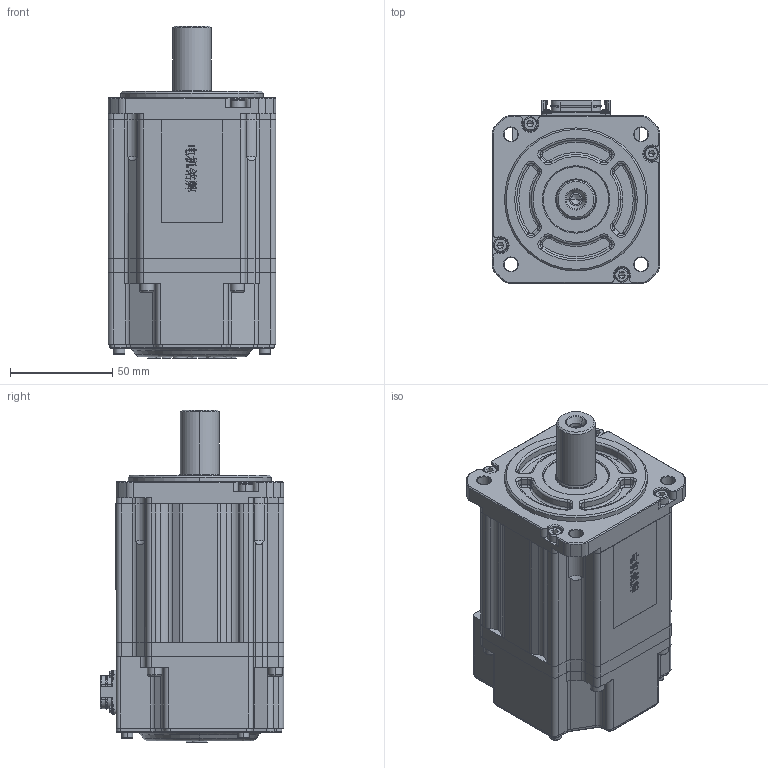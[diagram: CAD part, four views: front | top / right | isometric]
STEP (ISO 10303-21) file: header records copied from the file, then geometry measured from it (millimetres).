
FILE_DESCRIPTION (( 'STEP AP203' ), '1' );
FILE_NAME ('MC20-080-3L30-N751-0¡õCL-NNNN.STEP', '2026-04-20T15:25:38', ( '' ), ( '' ), 'SwSTEP 2.0', 'SolidWorks 2014', '' );
FILE_SCHEMA (( 'CONFIG_CONTROL_DESIGN' ));
Products named in the file (1): MC20-080-3L30-N751-0¡õCL-NNNN
Bounding box: 82 x 89.65 x 162.5 mm (x, y, z)
Volume: 811321.1 mm3; surface area: 125539.5 mm2
Topology: 18 solids, 22 shells, 2291 faces, 6015 edges, 3836 vertices
Faces by surface type: plane 1050, cylinder 600, bspline 340, cone 183, torus 118
Entity records: 90899 total; most frequent: CARTESIAN_POINT 37057, ORIENTED_EDGE 11880, DIRECTION 9996, EDGE_CURVE 5940, VERTEX_POINT 3836, VECTOR 3382, LINE 3382, AXIS2_PLACEMENT_3D 3307
